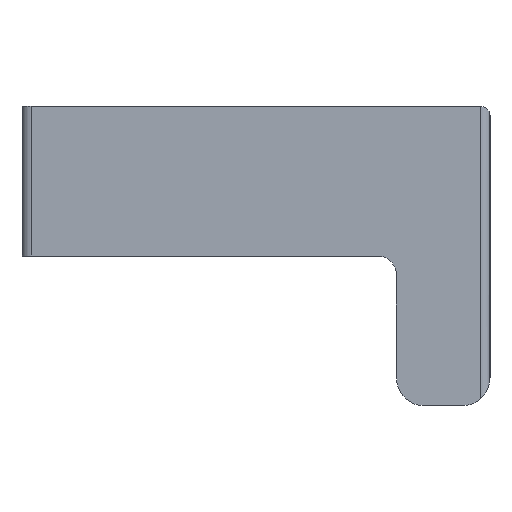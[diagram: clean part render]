
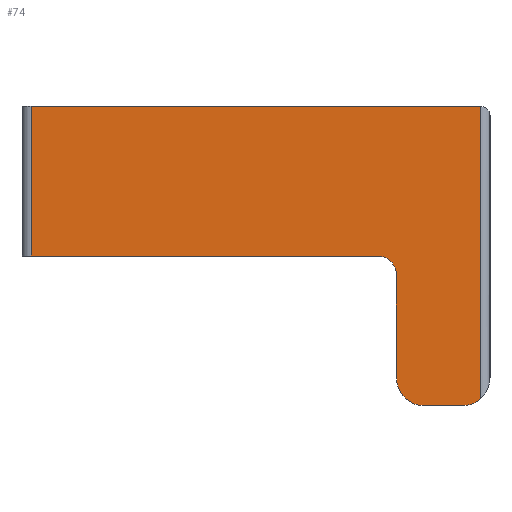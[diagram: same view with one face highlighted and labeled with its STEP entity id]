
A CAD part, left-side view. The second image highlights one B-rep face of the part: STEP entity #74.
In plain terms, the highlighted planar face has unit normal (-1, 0, 0).
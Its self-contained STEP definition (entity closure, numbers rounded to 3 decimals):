
#74 = ADVANCED_FACE( '', ( #150 ), #151, .F. );
#150 = FACE_OUTER_BOUND( '', #221, .T. );
#151 = PLANE( '', #222 );
#221 = EDGE_LOOP( '', ( #360, #361, #362, #363, #364, #365, #366, #367, #368 ) );
#222 = AXIS2_PLACEMENT_3D( '', #369, #370, #371 );
#360 = ORIENTED_EDGE( '', *, *, #446, .T. );
#361 = ORIENTED_EDGE( '', *, *, #437, .F. );
#362 = ORIENTED_EDGE( '', *, *, #428, .T. );
#363 = ORIENTED_EDGE( '', *, *, #443, .F. );
#364 = ORIENTED_EDGE( '', *, *, #457, .F. );
#365 = ORIENTED_EDGE( '', *, *, #460, .F. );
#366 = ORIENTED_EDGE( '', *, *, #416, .F. );
#367 = ORIENTED_EDGE( '', *, *, #461, .T. );
#368 = ORIENTED_EDGE( '', *, *, #433, .F. );
#369 = CARTESIAN_POINT( '', ( -7.5, -24.5, 3.5 ) );
#370 = DIRECTION( '', ( 1., 0., 0. ) );
#371 = DIRECTION( '', ( 0., 0., -1. ) );
#416 = EDGE_CURVE( '', #489, #491, #492, .T. );
#428 = EDGE_CURVE( '', #511, #512, #513, .T. );
#433 = EDGE_CURVE( '', #517, #519, #520, .T. );
#437 = EDGE_CURVE( '', #511, #524, #525, .T. );
#443 = EDGE_CURVE( '', #532, #512, #533, .T. );
#446 = EDGE_CURVE( '', #517, #524, #536, .T. );
#457 = EDGE_CURVE( '', #550, #532, #551, .T. );
#460 = EDGE_CURVE( '', #491, #550, #554, .T. );
#461 = EDGE_CURVE( '', #489, #519, #555, .F. );
#489 = VERTEX_POINT( '', #595 );
#491 = VERTEX_POINT( '', #604 );
#492 = CIRCLE( '', #605, 1.5 );
#511 = VERTEX_POINT( '', #631 );
#512 = VERTEX_POINT( '', #632 );
#513 = CIRCLE( '', #633, 1. );
#517 = VERTEX_POINT( '', #639 );
#519 = VERTEX_POINT( '', #641 );
#520 = LINE( '', #642, #643 );
#524 = VERTEX_POINT( '', #648 );
#525 = LINE( '', #649, #650 );
#532 = VERTEX_POINT( '', #657 );
#533 = LINE( '', #658, #659 );
#536 = LINE( '', #663, #664 );
#550 = VERTEX_POINT( '', #681 );
#551 = CIRCLE( '', #682, 1.5 );
#554 = LINE( '', #686, #687 );
#555 = LINE( '', #688, #689 );
#595 = CARTESIAN_POINT( '', ( -7.5, -24.5, -11.618 ) );
#604 = CARTESIAN_POINT( '', ( -7.5, -23.5, -12. ) );
#605 = AXIS2_PLACEMENT_3D( '', #710, #711, #712 );
#631 = CARTESIAN_POINT( '', ( -7.5, -19., -4. ) );
#632 = CARTESIAN_POINT( '', ( -7.5, -20., -5. ) );
#633 = AXIS2_PLACEMENT_3D( '', #726, #727, #728 );
#639 = CARTESIAN_POINT( '', ( -7.5, -0.5, 4. ) );
#641 = CARTESIAN_POINT( '', ( -7.5, -24.5, 4. ) );
#642 = CARTESIAN_POINT( '', ( -7.5, 0., 4. ) );
#643 = VECTOR( '', #734, 1000. );
#648 = CARTESIAN_POINT( '', ( -7.5, -0.5, -4. ) );
#649 = CARTESIAN_POINT( '', ( -7.5, -19., -4. ) );
#650 = VECTOR( '', #739, 1000. );
#657 = CARTESIAN_POINT( '', ( -7.5, -20., -10.5 ) );
#658 = CARTESIAN_POINT( '', ( -7.5, -20., -10.5 ) );
#659 = VECTOR( '', #749, 1000. );
#663 = CARTESIAN_POINT( '', ( -7.5, -0.5, 20. ) );
#664 = VECTOR( '', #751, 1000. );
#681 = CARTESIAN_POINT( '', ( -7.5, -21.5, -12. ) );
#682 = AXIS2_PLACEMENT_3D( '', #758, #759, #760 );
#686 = CARTESIAN_POINT( '', ( -7.5, -23.5, -12. ) );
#687 = VECTOR( '', #762, 1000. );
#688 = CARTESIAN_POINT( '', ( -7.5, -24.5, 20. ) );
#689 = VECTOR( '', #763, 1000. );
#710 = CARTESIAN_POINT( '', ( -7.5, -23.5, -10.5 ) );
#711 = DIRECTION( '', ( 1., 0., 0. ) );
#712 = DIRECTION( '', ( 0., 0., -1. ) );
#726 = CARTESIAN_POINT( '', ( -7.5, -19., -5. ) );
#727 = DIRECTION( '', ( 1., 0., 0. ) );
#728 = DIRECTION( '', ( 0., 0., -1. ) );
#734 = DIRECTION( '', ( 0., -1., 0. ) );
#739 = DIRECTION( '', ( 0., 1., 0. ) );
#749 = DIRECTION( '', ( 0., 0., 1. ) );
#751 = DIRECTION( '', ( 0., 0., -1. ) );
#758 = CARTESIAN_POINT( '', ( -7.5, -21.5, -10.5 ) );
#759 = DIRECTION( '', ( 1., 0., 0. ) );
#760 = DIRECTION( '', ( 0., 0., -1. ) );
#762 = DIRECTION( '', ( 0., 1., 0. ) );
#763 = DIRECTION( '', ( 0., 0., -1. ) );
